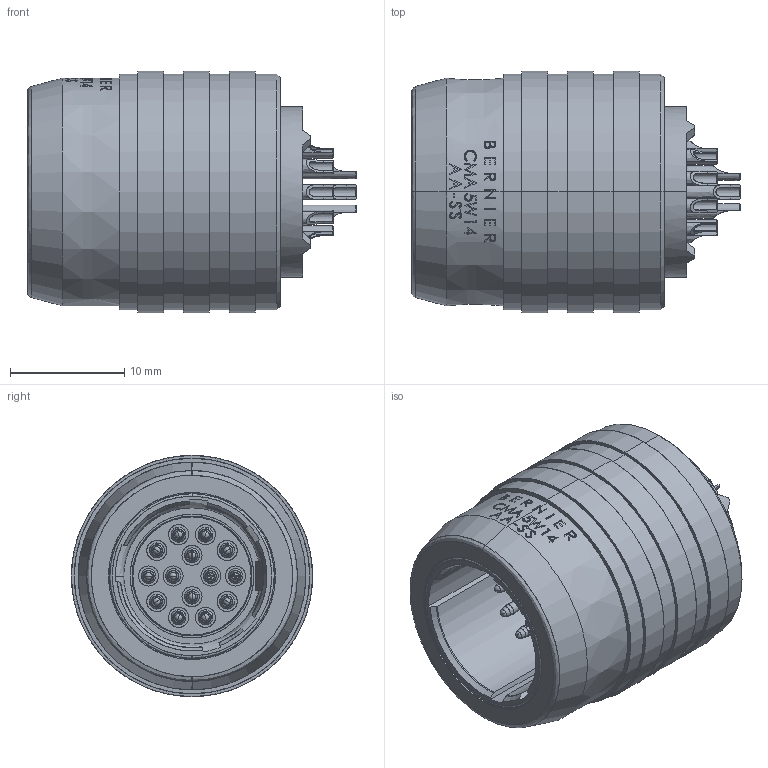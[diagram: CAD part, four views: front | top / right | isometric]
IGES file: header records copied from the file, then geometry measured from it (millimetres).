
Start section: SolidWorks IGES file using analytic representation for surfaces
Global section: file name: C:\Users\dmt\Desktop\CMA5W14_d2.IGS; native system: SolidWorks 2019; preprocessor: SolidWorks 2019; author: dmt; date: 190829.170334; units: millimetre
Bounding box: 28.72 x 21.08 x 21.08 mm (x, y, z)
Surface area: 4499.3 mm2 (no closed solid volume)
Topology: 0 solids, 0 shells, 1987 faces, 15963 edges, 15089 vertices
Faces by surface type: revolution 1306, bspline 681
